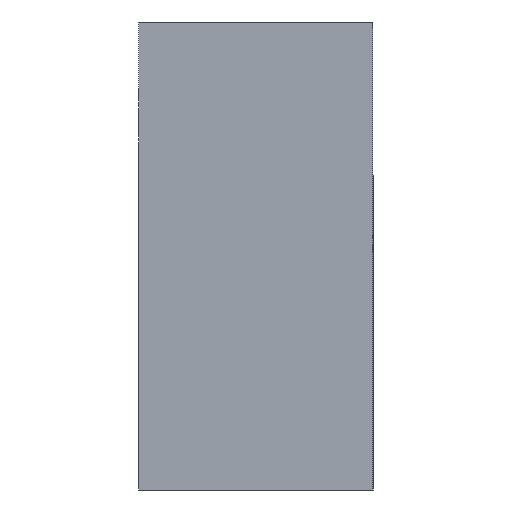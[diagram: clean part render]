
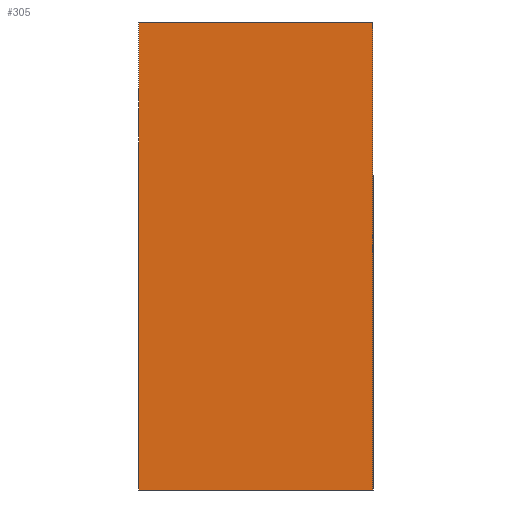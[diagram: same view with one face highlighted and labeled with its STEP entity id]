
A CAD part, left-side view. The second image highlights one B-rep face of the part: STEP entity #305.
In plain terms, the highlighted planar face has unit normal (-1, 0, 0).
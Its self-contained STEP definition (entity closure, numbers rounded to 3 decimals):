
#305=ADVANCED_FACE('',(#375),#363,.T.);
#363=PLANE('',#973);
#375=FACE_OUTER_BOUND('',#383,.T.);
#383=EDGE_LOOP('',(#518,#519,#520,#521));
#518=ORIENTED_EDGE('',*,*,#809,.F.);
#519=ORIENTED_EDGE('',*,*,#810,.F.);
#520=ORIENTED_EDGE('',*,*,#811,.T.);
#521=ORIENTED_EDGE('',*,*,#812,.T.);
#712=VERTEX_POINT('',#1337);
#713=VERTEX_POINT('',#1338);
#714=VERTEX_POINT('',#1340);
#715=VERTEX_POINT('',#1342);
#809=EDGE_CURVE('',#712,#713,#906,.T.);
#810=EDGE_CURVE('',#714,#712,#907,.T.);
#811=EDGE_CURVE('',#714,#715,#908,.T.);
#812=EDGE_CURVE('',#715,#713,#909,.T.);
#906=LINE('',#1336,#939);
#907=LINE('',#1339,#940);
#908=LINE('',#1341,#941);
#909=LINE('',#1343,#942);
#939=VECTOR('',#1084,1.);
#940=VECTOR('',#1085,1.);
#941=VECTOR('',#1086,1.);
#942=VECTOR('',#1087,1.);
#973=AXIS2_PLACEMENT_3D('',#1344,#1088,#1089);
#1084=DIRECTION('',(0.,-1.,0.));
#1085=DIRECTION('',(0.,0.,1.));
#1086=DIRECTION('',(0.,-1.,0.));
#1087=DIRECTION('',(0.,0.,1.));
#1088=DIRECTION('',(-1.,0.,0.));
#1089=DIRECTION('',(0.,-1.,0.));
#1336=CARTESIAN_POINT('',(0.,10.,0.));
#1337=CARTESIAN_POINT('',(0.,10.,0.));
#1338=CARTESIAN_POINT('',(0.,0.,0.));
#1339=CARTESIAN_POINT('',(0.,10.,-20.));
#1340=CARTESIAN_POINT('',(0.,10.,-20.));
#1341=CARTESIAN_POINT('',(0.,10.,-20.));
#1342=CARTESIAN_POINT('',(0.,0.,-20.));
#1343=CARTESIAN_POINT('',(0.,0.,-20.));
#1344=CARTESIAN_POINT('',(0.,10.,-20.));
